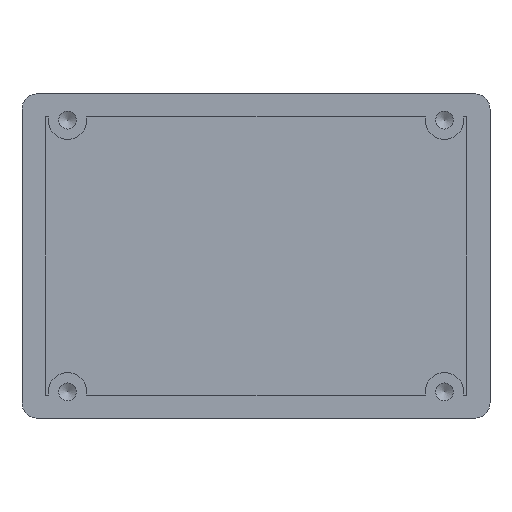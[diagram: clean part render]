
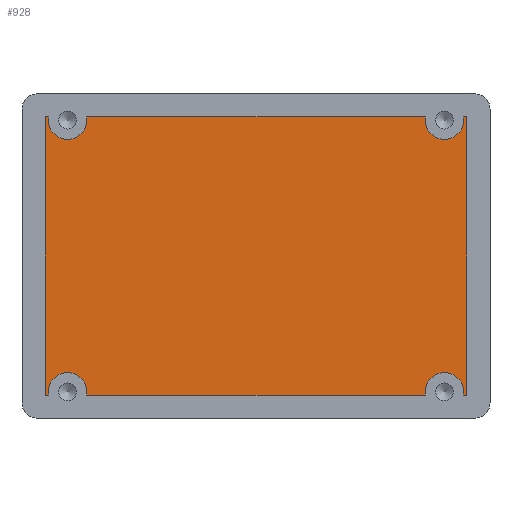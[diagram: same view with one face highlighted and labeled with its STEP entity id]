
A CAD part, front view. The second image highlights one B-rep face of the part: STEP entity #928.
In plain terms, the highlighted planar face has unit normal (0, -1, 0).
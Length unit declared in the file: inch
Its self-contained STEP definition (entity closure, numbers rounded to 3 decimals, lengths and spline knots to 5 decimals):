
#1 = DIRECTION ( 'NONE',  ( 1., 0., 0. ) ) ;
#3 = DIRECTION ( 'NONE',  ( 0., 0., -1. ) ) ;
#13 = CARTESIAN_POINT ( 'NONE',  ( 0., 0.825, 0. ) ) ;
#19 = EDGE_LOOP ( 'NONE', ( #165, #388, #430, #40, #44, #915, #502, #872, #680, #836, #481, #578 ) ) ;
#40 = ORIENTED_EDGE ( 'NONE', *, *, #940, .T. ) ;
#44 = ORIENTED_EDGE ( 'NONE', *, *, #554, .T. ) ;
#45 = DIRECTION ( 'NONE',  ( 0., 1., 0. ) ) ;
#47 = VECTOR ( 'NONE', #166, 39.37008 ) ;
#52 = AXIS2_PLACEMENT_3D ( 'NONE', #509, #365, #749 ) ;
#61 = LINE ( 'NONE', #683, #623 ) ;
#77 = LINE ( 'NONE', #293, #675 ) ;
#84 = DIRECTION ( 'NONE',  ( 0., 0., -1. ) ) ;
#109 = EDGE_CURVE ( 'NONE', #833, #202, #382, .T. ) ;
#127 = CARTESIAN_POINT ( 'NONE',  ( 1.22, 0.825, -0.88 ) ) ;
#158 = LINE ( 'NONE', #730, #624 ) ;
#164 = LINE ( 'NONE', #830, #275 ) ;
#165 = ORIENTED_EDGE ( 'NONE', *, *, #906, .F. ) ;
#166 = DIRECTION ( 'NONE',  ( 1., 0., 0. ) ) ;
#181 = LINE ( 'NONE', #605, #804 ) ;
#187 = LINE ( 'NONE', #525, #508 ) ;
#202 = VERTEX_POINT ( 'NONE', #597 ) ;
#224 = DIRECTION ( 'NONE',  ( 0., -1., 0. ) ) ;
#228 = CARTESIAN_POINT ( 'NONE',  ( 1.515, 0.825, 0.9 ) ) ;
#236 = DIRECTION ( 'NONE',  ( -1., 0., 0. ) ) ;
#269 = DIRECTION ( 'NONE',  ( 0., 0., -1. ) ) ;
#275 = VECTOR ( 'NONE', #614, 39.37008 ) ;
#285 = DIRECTION ( 'NONE',  ( -1., 0., 0. ) ) ;
#293 = CARTESIAN_POINT ( 'NONE',  ( -1.365, 0.825, 1.05 ) ) ;
#299 = CARTESIAN_POINT ( 'NONE',  ( -1.09661, 0.825, -0.9 ) ) ;
#303 = CARTESIAN_POINT ( 'NONE',  ( 1.515, 0.825, -0.9 ) ) ;
#308 = EDGE_CURVE ( 'NONE', #431, #708, #61, .T. ) ;
#326 = EDGE_CURVE ( 'NONE', #404, #410, #164, .T. ) ;
#356 = CIRCLE ( 'NONE', #52, 0.125 ) ;
#365 = DIRECTION ( 'NONE',  ( 0., -1., 0. ) ) ;
#374 = DIRECTION ( 'NONE',  ( 0., -1., 0. ) ) ;
#382 = LINE ( 'NONE', #228, #690 ) ;
#387 = EDGE_CURVE ( 'NONE', #778, #943, #874, .T. ) ;
#388 = ORIENTED_EDGE ( 'NONE', *, *, #910, .T. ) ;
#394 = EDGE_CURVE ( 'NONE', #943, #833, #181, .T. ) ;
#395 = AXIS2_PLACEMENT_3D ( 'NONE', #13, #374, #451 ) ;
#404 = VERTEX_POINT ( 'NONE', #951 ) ;
#410 = VERTEX_POINT ( 'NONE', #449 ) ;
#415 = CIRCLE ( 'NONE', #544, 0.125 ) ;
#427 = VERTEX_POINT ( 'NONE', #588 ) ;
#430 = ORIENTED_EDGE ( 'NONE', *, *, #700, .T. ) ;
#431 = VERTEX_POINT ( 'NONE', #299 ) ;
#434 = VERTEX_POINT ( 'NONE', #814 ) ;
#448 = CARTESIAN_POINT ( 'NONE',  ( 1.365, 0.825, -0.9 ) ) ;
#449 = CARTESIAN_POINT ( 'NONE',  ( -1.09661, 0.825, 0.9 ) ) ;
#450 = CARTESIAN_POINT ( 'NONE',  ( 1.09661, 0.825, -0.9 ) ) ;
#451 = DIRECTION ( 'NONE',  ( -1., 0., 0. ) ) ;
#480 = FACE_OUTER_BOUND ( 'NONE', #19, .T. ) ;
#481 = ORIENTED_EDGE ( 'NONE', *, *, #697, .F. ) ;
#502 = ORIENTED_EDGE ( 'NONE', *, *, #882, .T. ) ;
#507 = AXIS2_PLACEMENT_3D ( 'NONE', #817, #224, #3 ) ;
#508 = VECTOR ( 'NONE', #1, 39.37008 ) ;
#509 = CARTESIAN_POINT ( 'NONE',  ( -1.22, 0.825, 0.88 ) ) ;
#525 = CARTESIAN_POINT ( 'NONE',  ( 1.515, 0.825, -0.9 ) ) ;
#538 = VERTEX_POINT ( 'NONE', #628 ) ;
#544 = AXIS2_PLACEMENT_3D ( 'NONE', #637, #45, #922 ) ;
#554 = EDGE_CURVE ( 'NONE', #646, #431, #415, .T. ) ;
#574 = CARTESIAN_POINT ( 'NONE',  ( 1.365, 0.825, 0.9 ) ) ;
#578 = ORIENTED_EDGE ( 'NONE', *, *, #326, .T. ) ;
#588 = CARTESIAN_POINT ( 'NONE',  ( -1.365, 0.825, -0.9 ) ) ;
#597 = CARTESIAN_POINT ( 'NONE',  ( 1.34339, 0.825, 0.9 ) ) ;
#605 = CARTESIAN_POINT ( 'NONE',  ( 1.365, 0.825, 1.05 ) ) ;
#614 = DIRECTION ( 'NONE',  ( -1., 0., 0. ) ) ;
#623 = VECTOR ( 'NONE', #835, 39.37008 ) ;
#624 = VECTOR ( 'NONE', #285, 39.37008 ) ;
#628 = CARTESIAN_POINT ( 'NONE',  ( -1.34339, 0.825, 0.9 ) ) ;
#637 = CARTESIAN_POINT ( 'NONE',  ( -1.22, 0.825, -0.88 ) ) ;
#638 = DIRECTION ( 'NONE',  ( 0., 1., 0. ) ) ;
#640 = CARTESIAN_POINT ( 'NONE',  ( 1.34339, 0.825, -0.9 ) ) ;
#646 = VERTEX_POINT ( 'NONE', #711 ) ;
#652 = CIRCLE ( 'NONE', #507, 0.125 ) ;
#675 = VECTOR ( 'NONE', #84, 39.37008 ) ;
#680 = ORIENTED_EDGE ( 'NONE', *, *, #394, .T. ) ;
#683 = CARTESIAN_POINT ( 'NONE',  ( 1.515, 0.825, -0.9 ) ) ;
#690 = VECTOR ( 'NONE', #236, 39.37008 ) ;
#697 = EDGE_CURVE ( 'NONE', #404, #202, #652, .T. ) ;
#700 = EDGE_CURVE ( 'NONE', #434, #427, #77, .T. ) ;
#708 = VERTEX_POINT ( 'NONE', #450 ) ;
#711 = CARTESIAN_POINT ( 'NONE',  ( -1.34339, 0.825, -0.9 ) ) ;
#730 = CARTESIAN_POINT ( 'NONE',  ( 1.515, 0.825, 0.9 ) ) ;
#737 = AXIS2_PLACEMENT_3D ( 'NONE', #127, #638, #269 ) ;
#749 = DIRECTION ( 'NONE',  ( 0., 0., -1. ) ) ;
#756 = DIRECTION ( 'NONE',  ( 0., 0., 1. ) ) ;
#778 = VERTEX_POINT ( 'NONE', #640 ) ;
#804 = VECTOR ( 'NONE', #756, 39.37008 ) ;
#814 = CARTESIAN_POINT ( 'NONE',  ( -1.365, 0.825, 0.9 ) ) ;
#817 = CARTESIAN_POINT ( 'NONE',  ( 1.22, 0.825, 0.88 ) ) ;
#830 = CARTESIAN_POINT ( 'NONE',  ( 1.515, 0.825, 0.9 ) ) ;
#831 = CIRCLE ( 'NONE', #737, 0.125 ) ;
#833 = VERTEX_POINT ( 'NONE', #574 ) ;
#835 = DIRECTION ( 'NONE',  ( 1., 0., 0. ) ) ;
#836 = ORIENTED_EDGE ( 'NONE', *, *, #109, .T. ) ;
#872 = ORIENTED_EDGE ( 'NONE', *, *, #387, .T. ) ;
#874 = LINE ( 'NONE', #303, #47 ) ;
#879 = PLANE ( 'NONE',  #395 ) ;
#882 = EDGE_CURVE ( 'NONE', #708, #778, #831, .T. ) ;
#906 = EDGE_CURVE ( 'NONE', #538, #410, #356, .T. ) ;
#910 = EDGE_CURVE ( 'NONE', #538, #434, #158, .T. ) ;
#915 = ORIENTED_EDGE ( 'NONE', *, *, #308, .T. ) ;
#922 = DIRECTION ( 'NONE',  ( 0., 0., -1. ) ) ;
#928 = ADVANCED_FACE ( 'NONE', ( #480 ), #879, .T. ) ;
#940 = EDGE_CURVE ( 'NONE', #427, #646, #187, .T. ) ;
#943 = VERTEX_POINT ( 'NONE', #448 ) ;
#951 = CARTESIAN_POINT ( 'NONE',  ( 1.09661, 0.825, 0.9 ) ) ;
